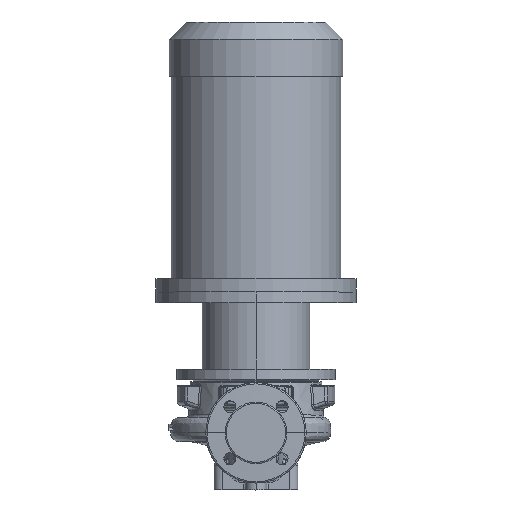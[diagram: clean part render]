
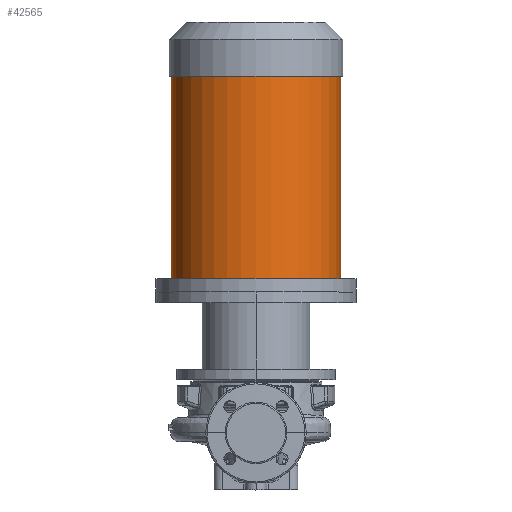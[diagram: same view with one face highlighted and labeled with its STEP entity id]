
A CAD part, top view. The second image highlights one B-rep face of the part: STEP entity #42565.
In plain terms, the highlighted cylindrical face has radius 126.5 mm (diameter 253 mm), a partial arc.
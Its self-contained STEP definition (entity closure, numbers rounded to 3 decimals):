
#657 = CARTESIAN_POINT ( 'NONE',  ( 0., 230.3, 0. ) ) ;
#1743 = CARTESIAN_POINT ( 'NONE',  ( 126.5, 532.3, 0. ) ) ;
#3032 = EDGE_CURVE ( 'NONE', #77560, #39423, #31805, .T. ) ;
#3546 = LINE ( 'NONE', #48979, #36511 ) ;
#4165 = CARTESIAN_POINT ( 'NONE',  ( 0., 532.3, 0. ) ) ;
#5852 = AXIS2_PLACEMENT_3D ( 'NONE', #657, #32667, #39305 ) ;
#8753 = ORIENTED_EDGE ( 'NONE', *, *, #29448, .T. ) ;
#8860 = EDGE_LOOP ( 'NONE', ( #29576, #8753, #63462, #83067 ) ) ;
#9188 = DIRECTION ( 'NONE',  ( 0., -1., 0. ) ) ;
#9734 = CIRCLE ( 'NONE', #42577, 126.5 ) ;
#16364 = VECTOR ( 'NONE', #36084, 1000. ) ;
#24076 = DIRECTION ( 'NONE',  ( -1., 0., 0. ) ) ;
#24420 = CIRCLE ( 'NONE', #5852, 126.5 ) ;
#24546 = AXIS2_PLACEMENT_3D ( 'NONE', #35554, #47972, #75617 ) ;
#29448 = EDGE_CURVE ( 'NONE', #77560, #42931, #9734, .T. ) ;
#29576 = ORIENTED_EDGE ( 'NONE', *, *, #3032, .F. ) ;
#31805 = LINE ( 'NONE', #54275, #16364 ) ;
#32667 = DIRECTION ( 'NONE',  ( 0., -1., 0. ) ) ;
#35554 = CARTESIAN_POINT ( 'NONE',  ( 0., 210.3, 0. ) ) ;
#36084 = DIRECTION ( 'NONE',  ( 0., -1., 0. ) ) ;
#36511 = VECTOR ( 'NONE', #9188, 1000. ) ;
#39305 = DIRECTION ( 'NONE',  ( -1., 0., 0. ) ) ;
#39423 = VERTEX_POINT ( 'NONE', #80365 ) ;
#42565 = ADVANCED_FACE ( 'NONE', ( #79005 ), #61459, .T. ) ;
#42577 = AXIS2_PLACEMENT_3D ( 'NONE', #4165, #43927, #24076 ) ;
#42931 = VERTEX_POINT ( 'NONE', #71554 ) ;
#43927 = DIRECTION ( 'NONE',  ( 0., -1., 0. ) ) ;
#47346 = EDGE_CURVE ( 'NONE', #39423, #54436, #24420, .T. ) ;
#47972 = DIRECTION ( 'NONE',  ( 0., -1., 0. ) ) ;
#48979 = CARTESIAN_POINT ( 'NONE',  ( -126.5, 210.3, 0. ) ) ;
#54275 = CARTESIAN_POINT ( 'NONE',  ( 126.5, 210.3, 0. ) ) ;
#54436 = VERTEX_POINT ( 'NONE', #73494 ) ;
#54709 = EDGE_CURVE ( 'NONE', #42931, #54436, #3546, .T. ) ;
#61459 = CYLINDRICAL_SURFACE ( 'NONE', #24546, 126.5 ) ;
#63462 = ORIENTED_EDGE ( 'NONE', *, *, #54709, .T. ) ;
#71554 = CARTESIAN_POINT ( 'NONE',  ( -126.5, 532.3, 0. ) ) ;
#73494 = CARTESIAN_POINT ( 'NONE',  ( -126.5, 230.3, 0. ) ) ;
#75617 = DIRECTION ( 'NONE',  ( -1., 0., 0. ) ) ;
#77560 = VERTEX_POINT ( 'NONE', #1743 ) ;
#79005 = FACE_OUTER_BOUND ( 'NONE', #8860, .T. ) ;
#80365 = CARTESIAN_POINT ( 'NONE',  ( 126.5, 230.3, 0. ) ) ;
#83067 = ORIENTED_EDGE ( 'NONE', *, *, #47346, .F. ) ;
